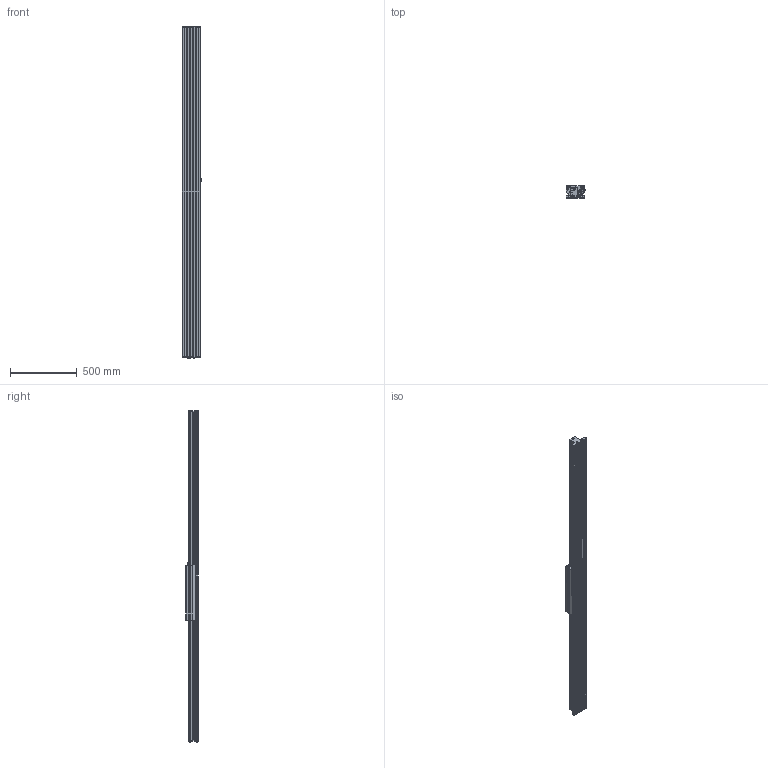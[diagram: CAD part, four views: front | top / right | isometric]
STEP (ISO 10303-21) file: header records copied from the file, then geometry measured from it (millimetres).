
FILE_DESCRIPTION (( 'STEP AP214' ), '1' );
FILE_NAME ('SINADRIVES Linear Motor Stage MLL20630XS-XX-1-0-ST-00-02484.STEP', '2015-07-07T08:03:00', ( 'Tecnico' ), ( '' ), 'SwSTEP 2.0', 'SolidWorks 2009', '' );
FILE_SCHEMA (( 'AUTOMOTIVE_DESIGN' ));
Length unit declared in the file: millimetre
Products named in the file (7): SINADRIVES CARRIAGE MLL20630XS-1; CARRIAGE MLL20630; Connector power+signal Y-tec 45; SINADRIVES PROFILE MLL2XXXX-2468; SINADRIVES ENDBLOCK MLL2; SINADRIVES ENDBLOCK MLL2-2; SINADRIVES Linear Motor Stage MLL20630XS-XX-1-0-ST-00-02484
Assembly tree (6 placements, depth 3):
  SINADRIVES Linear Motor Stage MLL20630XS-XX-1-0-ST-00-02484
    SINADRIVES CARRIAGE MLL20630XS-1
      Connector power+signal Y-tec 45
      CARRIAGE MLL20630
    SINADRIVES PROFILE MLL2XXXX-2468
    SINADRIVES ENDBLOCK MLL2-2
    SINADRIVES ENDBLOCK MLL2
Bounding box: 144.43 x 91 x 2492.8 mm (x, y, z)
Volume: 12206321 mm3; surface area: 2079848 mm2
Topology: 2 solids, 42 shells, 950 faces, 2640 edges, 1730 vertices
Faces by surface type: plane 445, cylinder 302, bspline 79, cone 70, torus 42, sphere 12
Entity records: 40587 total; most frequent: CARTESIAN_POINT 8656, ORIENTED_EDGE 5024, DIRECTION 4947, EDGE_CURVE 2622, AXIS2_PLACEMENT_3D 1781, VERTEX_POINT 1730, LINE 1385, VECTOR 1385
